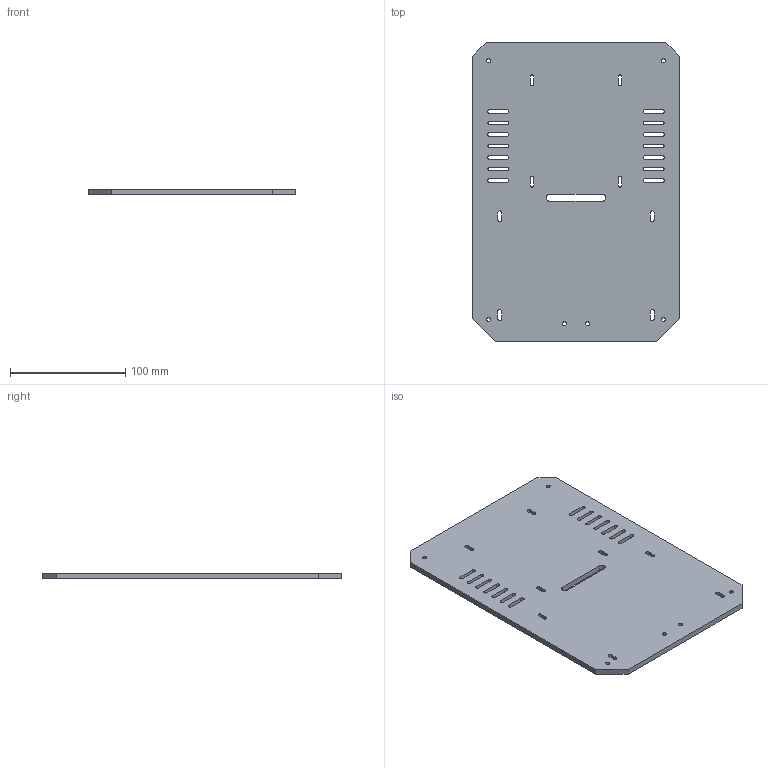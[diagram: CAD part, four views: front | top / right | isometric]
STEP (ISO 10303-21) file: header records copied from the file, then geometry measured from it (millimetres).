
FILE_DESCRIPTION(('FreeCAD Model'),'2;1');
FILE_NAME('Open CASCADE Shape Model','2026-10-15T23:35:51',('FreeCAD'),( 'FreeCAD'),'Open CASCADE STEP processor 7.8','FreeCAD','Unknown');
FILE_SCHEMA(('AUTOMOTIVE_DESIGN { 1 0 10303 214 1 1 1 1 }'));
Length unit declared in the file: millimetre
Products named in the file (1): Open CASCADE STEP translator 7.8 5
Bounding box: 180 x 260 x 5 mm (x, y, z)
Volume: 224384.1 mm3; surface area: 98551.9 mm2
Topology: 1 solids, 1 shells, 108 faces, 318 edges, 212 vertices
Faces by surface type: plane 56, cylinder 52
Full cylindrical faces by diameter (mm): 3.4 x6
Entity records: 3752 total; most frequent: DIRECTION 640, CARTESIAN_POINT 639, ORIENTED_EDGE 636, EDGE_CURVE 318, LINE 214, VECTOR 214, AXIS2_PLACEMENT_3D 213, VERTEX_POINT 212
